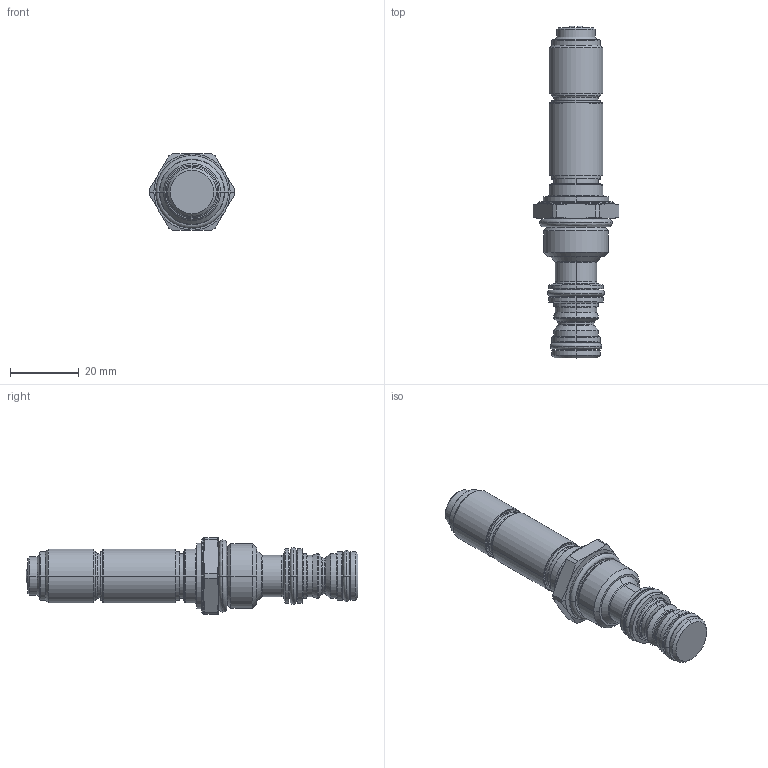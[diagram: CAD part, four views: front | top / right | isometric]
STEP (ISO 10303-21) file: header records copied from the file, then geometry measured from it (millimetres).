
FILE_DESCRIPTION((''),'2;1');
FILE_NAME('PRT0001','2009-03-16T',('jcs'),(''),'PRO/ENGINEER BY PARAMETRIC TECHNOLOGY CORPORATION, 2008010','PRO/ENGINEER BY PARAMETRIC TECHNOLOGY CORPORATION, 2008010','');
FILE_SCHEMA(('CONFIG_CONTROL_DESIGN'));
Length unit declared in the file: inch
Products named in the file (1): PRT0001
Bounding box: 25.02 x 96.78 x 22.23 mm (x, y, z)
Volume: 18541.7 mm3; surface area: 6980.8 mm2
Topology: 3 solids, 3 shells, 232 faces, 494 edges, 278 vertices
Faces by surface type: cylinder 70, torus 56, cone 56, plane 26, revolution 24
Entity records: 6962 total; most frequent: CARTESIAN_POINT 1834, DIRECTION 1176, ORIENTED_EDGE 988, AXIS2_PLACEMENT_3D 510, EDGE_CURVE 494, CIRCLE 302, VERTEX_POINT 278, EDGE_LOOP 246
